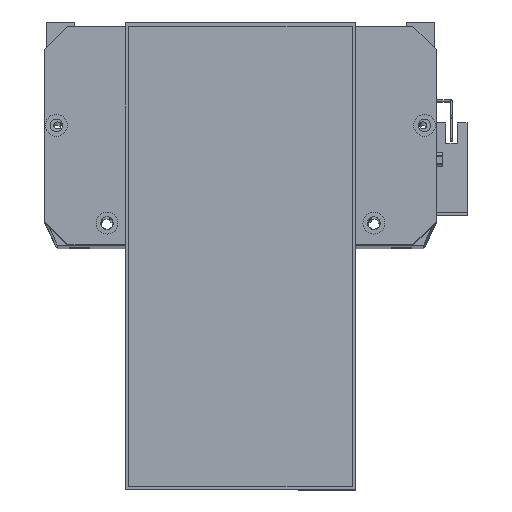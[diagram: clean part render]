
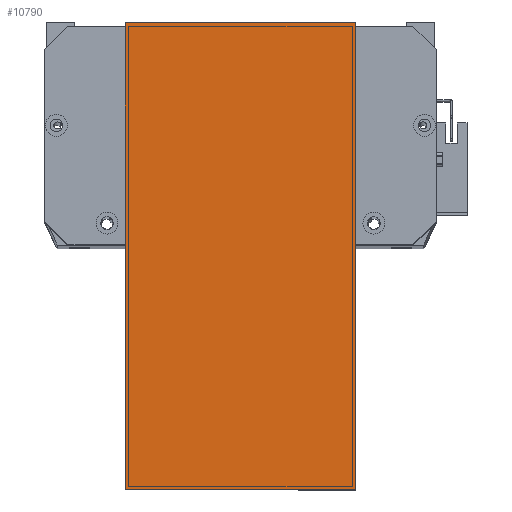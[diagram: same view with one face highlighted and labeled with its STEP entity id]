
A CAD part, top view. The second image highlights one B-rep face of the part: STEP entity #10790.
In plain terms, the highlighted planar face has unit normal (0, 0, 1) as drawn and (0, 0, -1) by its records, which use the part's own axes.
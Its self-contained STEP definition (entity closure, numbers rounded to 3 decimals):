
#265 = CARTESIAN_POINT ( 'NONE',  ( -12., 19.5, 0. ) ) ;
#1375 = DIRECTION ( 'NONE',  ( 0., 0., -1. ) ) ;
#1697 = EDGE_CURVE ( 'NONE', #10866, #26599, #15431, .T. ) ;
#2437 = CARTESIAN_POINT ( 'NONE',  ( 203., 119.5, 0. ) ) ;
#2775 = AXIS2_PLACEMENT_3D ( 'NONE', #14369, #1375, #16576 ) ;
#4474 = LINE ( 'NONE', #24492, #16712 ) ;
#5832 = CARTESIAN_POINT ( 'NONE',  ( 203., 19.5, 0. ) ) ;
#6851 = EDGE_CURVE ( 'NONE', #21337, #10866, #25931, .T. ) ;
#7302 = ORIENTED_EDGE ( 'NONE', *, *, #7987, .T. ) ;
#7579 = LINE ( 'NONE', #26513, #12003 ) ;
#7987 = EDGE_CURVE ( 'NONE', #10032, #26599, #4474, .T. ) ;
#8824 = ORIENTED_EDGE ( 'NONE', *, *, #6851, .F. ) ;
#10032 = VERTEX_POINT ( 'NONE', #13960 ) ;
#10061 = CARTESIAN_POINT ( 'NONE',  ( 0., 19.5, 0. ) ) ;
#10790 = ADVANCED_FACE ( 'NONE', ( #26056 ), #12209, .T. ) ;
#10866 = VERTEX_POINT ( 'NONE', #5832 ) ;
#11321 = DIRECTION ( 'NONE',  ( 0., -1., 0. ) ) ;
#12003 = VECTOR ( 'NONE', #11321, 1000. ) ;
#12209 = PLANE ( 'NONE',  #2775 ) ;
#12569 = CARTESIAN_POINT ( 'NONE',  ( 203., 0., 0. ) ) ;
#13377 = EDGE_CURVE ( 'NONE', #10032, #21337, #7579, .T. ) ;
#13960 = CARTESIAN_POINT ( 'NONE',  ( 0., 119.5, 0. ) ) ;
#14369 = CARTESIAN_POINT ( 'NONE',  ( 0., 0., 0. ) ) ;
#14385 = VECTOR ( 'NONE', #15430, 1000. ) ;
#15430 = DIRECTION ( 'NONE',  ( 1., 0., 0. ) ) ;
#15431 = LINE ( 'NONE', #12569, #27020 ) ;
#16576 = DIRECTION ( 'NONE',  ( -1., 0., 0. ) ) ;
#16712 = VECTOR ( 'NONE', #26700, 1000. ) ;
#18258 = ORIENTED_EDGE ( 'NONE', *, *, #1697, .F. ) ;
#19923 = ORIENTED_EDGE ( 'NONE', *, *, #13377, .F. ) ;
#21337 = VERTEX_POINT ( 'NONE', #10061 ) ;
#24492 = CARTESIAN_POINT ( 'NONE',  ( -12., 119.5, 0. ) ) ;
#25571 = DIRECTION ( 'NONE',  ( 0., 1., 0. ) ) ;
#25931 = LINE ( 'NONE', #265, #14385 ) ;
#26056 = FACE_OUTER_BOUND ( 'NONE', #26351, .T. ) ;
#26351 = EDGE_LOOP ( 'NONE', ( #8824, #19923, #7302, #18258 ) ) ;
#26513 = CARTESIAN_POINT ( 'NONE',  ( 0., 0., 0. ) ) ;
#26599 = VERTEX_POINT ( 'NONE', #2437 ) ;
#26700 = DIRECTION ( 'NONE',  ( 1., 0., 0. ) ) ;
#27020 = VECTOR ( 'NONE', #25571, 1000. ) ;
